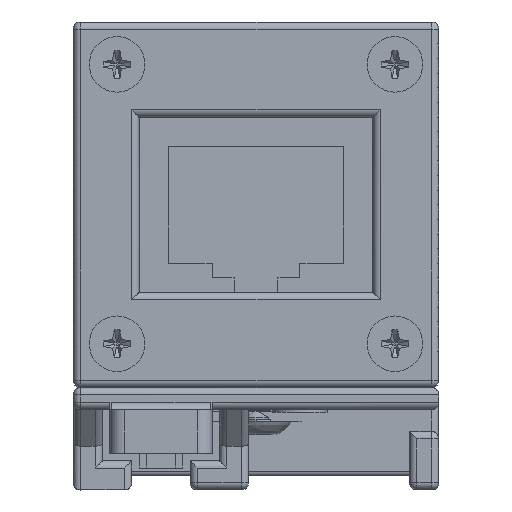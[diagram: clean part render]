
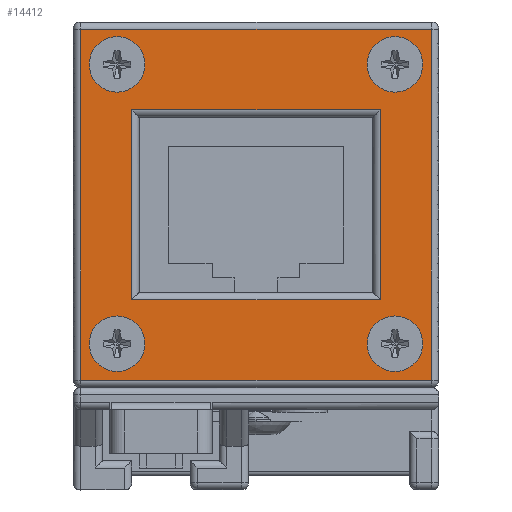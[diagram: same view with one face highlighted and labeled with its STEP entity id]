
A CAD part, left-side view. The second image highlights one B-rep face of the part: STEP entity #14412.
In plain terms, the highlighted planar face has unit normal (-1, 0, 0).
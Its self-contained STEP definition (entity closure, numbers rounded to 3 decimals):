
#12245=CARTESIAN_POINT('',(-41.5,9.5,7.7));
#12246=VERTEX_POINT('',#12245);
#12253=CARTESIAN_POINT('',(-41.5,9.5,11.5));
#12254=VERTEX_POINT('',#12253);
#12255=CARTESIAN_POINT('',(-41.5,9.5,9.6));
#12256=DIRECTION('',(-1.,0.,0.));
#12257=DIRECTION('',(0.,0.,-1.));
#12258=AXIS2_PLACEMENT_3D('',#12255,#12256,#12257);
#12259=CIRCLE('',#12258,1.9);
#12260=EDGE_CURVE('',#12246,#12254,#12259,.T.);
#12262=CARTESIAN_POINT('',(-41.5,9.5,9.6));
#12263=DIRECTION('',(-1.,0.,0.));
#12264=DIRECTION('',(0.,0.,-1.));
#12265=AXIS2_PLACEMENT_3D('',#12262,#12263,#12264);
#12266=CIRCLE('',#12265,1.9);
#12267=EDGE_CURVE('',#12254,#12246,#12266,.T.);
#12744=CARTESIAN_POINT('',(-41.5,9.5,-11.4));
#12745=VERTEX_POINT('',#12744);
#12752=CARTESIAN_POINT('',(-41.5,9.5,-7.6));
#12753=VERTEX_POINT('',#12752);
#12754=CARTESIAN_POINT('',(-41.5,9.5,-9.5));
#12755=DIRECTION('',(-1.,0.,0.));
#12756=DIRECTION('',(0.,0.,-1.));
#12757=AXIS2_PLACEMENT_3D('',#12754,#12755,#12756);
#12758=CIRCLE('',#12757,1.9);
#12759=EDGE_CURVE('',#12745,#12753,#12758,.T.);
#12761=CARTESIAN_POINT('',(-41.5,9.5,-9.5));
#12762=DIRECTION('',(-1.,0.,0.));
#12763=DIRECTION('',(0.,0.,-1.));
#12764=AXIS2_PLACEMENT_3D('',#12761,#12762,#12763);
#12765=CIRCLE('',#12764,1.9);
#12766=EDGE_CURVE('',#12753,#12745,#12765,.T.);
#13243=CARTESIAN_POINT('',(-41.5,-9.5,7.7));
#13244=VERTEX_POINT('',#13243);
#13251=CARTESIAN_POINT('',(-41.5,-9.5,11.5));
#13252=VERTEX_POINT('',#13251);
#13253=CARTESIAN_POINT('',(-41.5,-9.5,9.6));
#13254=DIRECTION('',(-1.,0.,0.));
#13255=DIRECTION('',(0.,0.,-1.));
#13256=AXIS2_PLACEMENT_3D('',#13253,#13254,#13255);
#13257=CIRCLE('',#13256,1.9);
#13258=EDGE_CURVE('',#13244,#13252,#13257,.T.);
#13260=CARTESIAN_POINT('',(-41.5,-9.5,9.6));
#13261=DIRECTION('',(-1.,0.,0.));
#13262=DIRECTION('',(0.,0.,-1.));
#13263=AXIS2_PLACEMENT_3D('',#13260,#13261,#13262);
#13264=CIRCLE('',#13263,1.9);
#13265=EDGE_CURVE('',#13252,#13244,#13264,.T.);
#13742=CARTESIAN_POINT('',(-41.5,-9.5,-11.4));
#13743=VERTEX_POINT('',#13742);
#13750=CARTESIAN_POINT('',(-41.5,-9.5,-7.6));
#13751=VERTEX_POINT('',#13750);
#13752=CARTESIAN_POINT('',(-41.5,-9.5,-9.5));
#13753=DIRECTION('',(-1.,0.,0.));
#13754=DIRECTION('',(0.,0.,-1.));
#13755=AXIS2_PLACEMENT_3D('',#13752,#13753,#13754);
#13756=CIRCLE('',#13755,1.9);
#13757=EDGE_CURVE('',#13743,#13751,#13756,.T.);
#13759=CARTESIAN_POINT('',(-41.5,-9.5,-9.5));
#13760=DIRECTION('',(-1.,0.,0.));
#13761=DIRECTION('',(0.,0.,-1.));
#13762=AXIS2_PLACEMENT_3D('',#13759,#13760,#13761);
#13763=CIRCLE('',#13762,1.9);
#13764=EDGE_CURVE('',#13751,#13743,#13763,.T.);
#13780=CARTESIAN_POINT('',(-41.5,8.5,-6.5));
#13781=VERTEX_POINT('',#13780);
#13806=CARTESIAN_POINT('',(-41.5,8.5,6.5));
#13807=VERTEX_POINT('',#13806);
#13824=CARTESIAN_POINT('',(-41.5,8.5,6.5));
#13825=DIRECTION('',(0.,0.,-1.));
#13826=VECTOR('',#13825,13.);
#13827=LINE('',#13824,#13826);
#13828=EDGE_CURVE('',#13807,#13781,#13827,.T.);
#13838=CARTESIAN_POINT('',(-41.5,-8.5,6.5));
#13839=VERTEX_POINT('',#13838);
#13858=CARTESIAN_POINT('',(-41.5,-8.5,6.5));
#13859=DIRECTION('',(-0.,1.,-0.));
#13860=VECTOR('',#13859,17.);
#13861=LINE('',#13858,#13860);
#13862=EDGE_CURVE('',#13839,#13807,#13861,.T.);
#13881=CARTESIAN_POINT('',(-41.5,-8.5,-6.5));
#13882=VERTEX_POINT('',#13881);
#13922=CARTESIAN_POINT('',(-41.5,8.5,-6.5));
#13923=DIRECTION('',(0.,-1.,0.));
#13924=VECTOR('',#13923,17.);
#13925=LINE('',#13922,#13924);
#13926=EDGE_CURVE('',#13781,#13882,#13925,.T.);
#13944=CARTESIAN_POINT('',(-41.5,-8.5,-6.5));
#13945=DIRECTION('',(-0.,-0.,1.));
#13946=VECTOR('',#13945,13.);
#13947=LINE('',#13944,#13946);
#13948=EDGE_CURVE('',#13882,#13839,#13947,.T.);
#13958=CARTESIAN_POINT('',(-41.5,-12.,-12.));
#13959=VERTEX_POINT('',#13958);
#13983=CARTESIAN_POINT('',(-41.5,12.,-12.));
#13984=VERTEX_POINT('',#13983);
#13999=CARTESIAN_POINT('',(-41.5,-12.,-12.));
#14000=DIRECTION('',(-0.,1.,-0.));
#14001=VECTOR('',#14000,24.);
#14002=LINE('',#13999,#14001);
#14003=EDGE_CURVE('',#13959,#13984,#14002,.T.);
#14013=CARTESIAN_POINT('',(-41.5,-12.,12.));
#14014=VERTEX_POINT('',#14013);
#14022=CARTESIAN_POINT('',(-41.5,-12.,12.));
#14023=DIRECTION('',(0.,0.,-1.));
#14024=VECTOR('',#14023,24.);
#14025=LINE('',#14022,#14024);
#14026=EDGE_CURVE('',#14014,#13959,#14025,.T.);
#14149=CARTESIAN_POINT('',(-41.5,12.,12.));
#14150=VERTEX_POINT('',#14149);
#14237=CARTESIAN_POINT('',(-41.5,12.,-12.));
#14238=DIRECTION('',(-0.,-0.,1.));
#14239=VECTOR('',#14238,24.);
#14240=LINE('',#14237,#14239);
#14241=EDGE_CURVE('',#13984,#14150,#14240,.T.);
#14258=CARTESIAN_POINT('',(-41.5,12.,12.));
#14259=DIRECTION('',(0.,-1.,0.));
#14260=VECTOR('',#14259,24.);
#14261=LINE('',#14258,#14260);
#14262=EDGE_CURVE('',#14150,#14014,#14261,.T.);
#14379=CARTESIAN_POINT('',(-41.5,0.,0.));
#14380=DIRECTION('',(1.,0.,0.));
#14381=DIRECTION('',(0.,-1.,0.));
#14382=AXIS2_PLACEMENT_3D('',#14379,#14380,#14381);
#14383=PLANE('',#14382);
#14384=ORIENTED_EDGE('',*,*,#12260,.F.);
#14385=ORIENTED_EDGE('',*,*,#12267,.F.);
#14386=EDGE_LOOP('',(#14384,#14385));
#14387=FACE_BOUND('',#14386,.T.);
#14388=ORIENTED_EDGE('',*,*,#12759,.F.);
#14389=ORIENTED_EDGE('',*,*,#12766,.F.);
#14390=EDGE_LOOP('',(#14388,#14389));
#14391=FACE_BOUND('',#14390,.T.);
#14392=ORIENTED_EDGE('',*,*,#13258,.F.);
#14393=ORIENTED_EDGE('',*,*,#13265,.F.);
#14394=EDGE_LOOP('',(#14392,#14393));
#14395=FACE_BOUND('',#14394,.T.);
#14396=ORIENTED_EDGE('',*,*,#13757,.F.);
#14397=ORIENTED_EDGE('',*,*,#13764,.F.);
#14398=EDGE_LOOP('',(#14396,#14397));
#14399=FACE_BOUND('',#14398,.T.);
#14400=ORIENTED_EDGE('',*,*,#13862,.F.);
#14401=ORIENTED_EDGE('',*,*,#13948,.F.);
#14402=ORIENTED_EDGE('',*,*,#13926,.F.);
#14403=ORIENTED_EDGE('',*,*,#13828,.F.);
#14404=EDGE_LOOP('',(#14400,#14401,#14402,#14403));
#14405=FACE_BOUND('',#14404,.T.);
#14406=ORIENTED_EDGE('',*,*,#14026,.F.);
#14407=ORIENTED_EDGE('',*,*,#14262,.F.);
#14408=ORIENTED_EDGE('',*,*,#14241,.F.);
#14409=ORIENTED_EDGE('',*,*,#14003,.F.);
#14410=EDGE_LOOP('',(#14406,#14407,#14408,#14409));
#14411=FACE_BOUND('',#14410,.T.);
#14412=ADVANCED_FACE('',(#14387,#14391,#14395,#14399,#14405,#14411),#14383,.F.);
